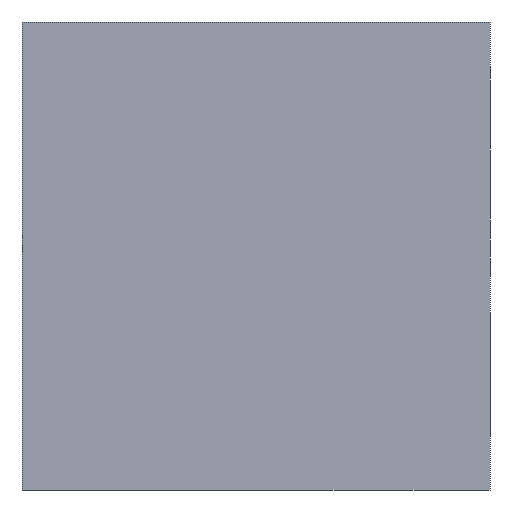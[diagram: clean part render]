
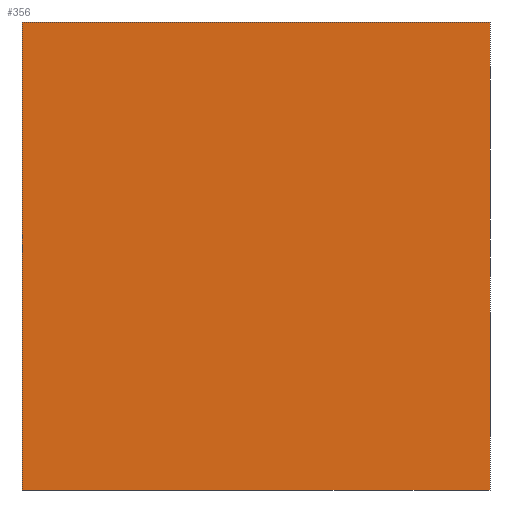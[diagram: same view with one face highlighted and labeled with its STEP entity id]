
A CAD part, left-side view. The second image highlights one B-rep face of the part: STEP entity #356.
In plain terms, the highlighted planar face has unit normal (-1, 0, 0).
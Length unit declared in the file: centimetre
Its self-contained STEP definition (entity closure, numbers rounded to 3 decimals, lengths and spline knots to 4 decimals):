
#33 = DIRECTION ( 'NONE',  ( 0., 0., -1. ) ) ;
#41 = LINE ( 'NONE', #307, #503 ) ;
#46 = DIRECTION ( 'NONE',  ( 0., 0., -1. ) ) ;
#55 = LINE ( 'NONE', #225, #110 ) ;
#56 = LINE ( 'NONE', #382, #114 ) ;
#80 = DIRECTION ( 'NONE',  ( 0., -1., 0. ) ) ;
#86 = EDGE_LOOP ( 'NONE', ( #219, #450, #163, #346 ) ) ;
#94 = LINE ( 'NONE', #432, #258 ) ;
#110 = VECTOR ( 'NONE', #394, 100. ) ;
#114 = VECTOR ( 'NONE', #519, 100. ) ;
#133 = VERTEX_POINT ( 'NONE', #311 ) ;
#156 = CARTESIAN_POINT ( 'NONE',  ( 0., 0., 0. ) ) ;
#163 = ORIENTED_EDGE ( 'NONE', *, *, #544, .F. ) ;
#171 = CARTESIAN_POINT ( 'NONE',  ( 0., 1000., 1000. ) ) ;
#189 = EDGE_CURVE ( 'NONE', #228, #309, #56, .T. ) ;
#195 = PLANE ( 'NONE',  #286 ) ;
#202 = CARTESIAN_POINT ( 'NONE',  ( 0., 1000., 0. ) ) ;
#216 = EDGE_CURVE ( 'NONE', #133, #358, #94, .T. ) ;
#219 = ORIENTED_EDGE ( 'NONE', *, *, #486, .T. ) ;
#225 = CARTESIAN_POINT ( 'NONE',  ( 0., 1000., 0. ) ) ;
#228 = VERTEX_POINT ( 'NONE', #171 ) ;
#242 = FACE_OUTER_BOUND ( 'NONE', #86, .T. ) ;
#258 = VECTOR ( 'NONE', #46, 100. ) ;
#286 = AXIS2_PLACEMENT_3D ( 'NONE', #413, #418, #33 ) ;
#307 = CARTESIAN_POINT ( 'NONE',  ( 0., 1000., 1000. ) ) ;
#309 = VERTEX_POINT ( 'NONE', #202 ) ;
#311 = CARTESIAN_POINT ( 'NONE',  ( 0., 0., 1000. ) ) ;
#346 = ORIENTED_EDGE ( 'NONE', *, *, #189, .T. ) ;
#356 = ADVANCED_FACE ( 'NONE', ( #242 ), #195, .F. ) ;
#358 = VERTEX_POINT ( 'NONE', #156 ) ;
#382 = CARTESIAN_POINT ( 'NONE',  ( 0., 1000., 1000. ) ) ;
#394 = DIRECTION ( 'NONE',  ( 0., -1., 0. ) ) ;
#413 = CARTESIAN_POINT ( 'NONE',  ( 0., 1000., 1000. ) ) ;
#418 = DIRECTION ( 'NONE',  ( 1., 0., 0. ) ) ;
#432 = CARTESIAN_POINT ( 'NONE',  ( 0., 0., 1000. ) ) ;
#450 = ORIENTED_EDGE ( 'NONE', *, *, #216, .F. ) ;
#486 = EDGE_CURVE ( 'NONE', #309, #358, #55, .T. ) ;
#503 = VECTOR ( 'NONE', #80, 100. ) ;
#519 = DIRECTION ( 'NONE',  ( 0., 0., -1. ) ) ;
#544 = EDGE_CURVE ( 'NONE', #228, #133, #41, .T. ) ;
